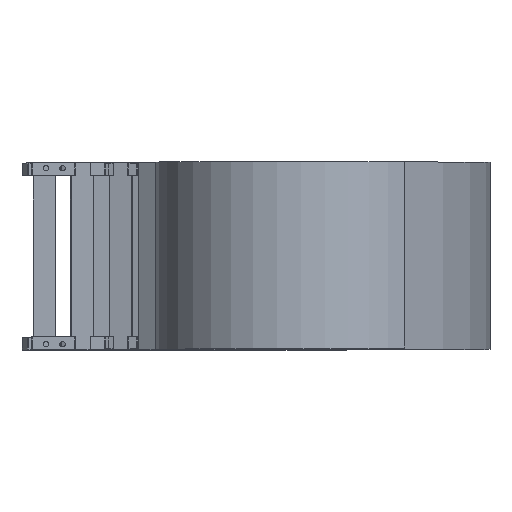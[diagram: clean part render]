
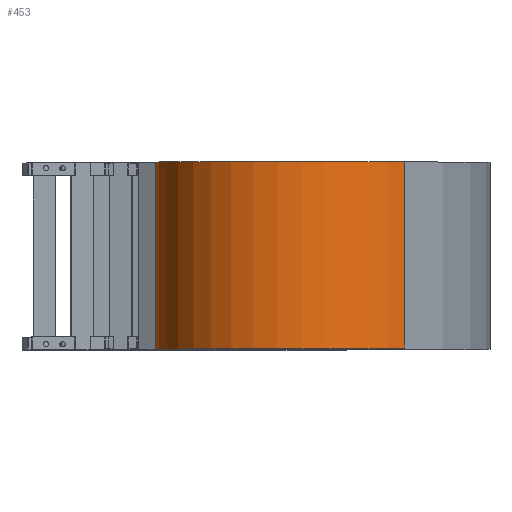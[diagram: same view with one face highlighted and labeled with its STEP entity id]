
A CAD part, top view. The second image highlights one B-rep face of the part: STEP entity #453.
In plain terms, the highlighted cylindrical face has radius 150 mm (diameter 300 mm), a partial arc.
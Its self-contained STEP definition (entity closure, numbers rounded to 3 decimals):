
#453 = ADVANCED_FACE( '', ( #1202 ), #1203, .T. );
#1202 = FACE_OUTER_BOUND( '', #2308, .T. );
#1203 = CYLINDRICAL_SURFACE( '', #2309, 150. );
#2308 = EDGE_LOOP( '', ( #3435, #3436, #3437, #3438 ) );
#2309 = AXIS2_PLACEMENT_3D( '', #3439, #3440, #3441 );
#3435 = ORIENTED_EDGE( '', *, *, #6821, .T. );
#3436 = ORIENTED_EDGE( '', *, *, #6822, .F. );
#3437 = ORIENTED_EDGE( '', *, *, #6823, .F. );
#3438 = ORIENTED_EDGE( '', *, *, #6824, .T. );
#3439 = CARTESIAN_POINT( '', ( 247.117, 101.5, 187.171 ) );
#3440 = DIRECTION( '', ( 0., 1., 0. ) );
#3441 = DIRECTION( '', ( 0., 0., -1. ) );
#6821 = EDGE_CURVE( '', #8202, #8203, #8204, .T. );
#6822 = EDGE_CURVE( '', #8205, #8203, #8206, .T. );
#6823 = EDGE_CURVE( '', #8207, #8205, #8208, .T. );
#6824 = EDGE_CURVE( '', #8207, #8202, #8209, .T. );
#8202 = VERTEX_POINT( '', #10247 );
#8203 = VERTEX_POINT( '', #10248 );
#8204 = CIRCLE( '', #10249, 150. );
#8205 = VERTEX_POINT( '', #10250 );
#8206 = LINE( '', #10251, #10252 );
#8207 = VERTEX_POINT( '', #10253 );
#8208 = CIRCLE( '', #10254, 150. );
#8209 = LINE( '', #10255, #10256 );
#10247 = CARTESIAN_POINT( '', ( 127.544, -101.5, 96.604 ) );
#10248 = CARTESIAN_POINT( '', ( 366.69, -101.5, 277.738 ) );
#10249 = AXIS2_PLACEMENT_3D( '', #13034, #13035, #13036 );
#10250 = CARTESIAN_POINT( '', ( 366.69, 101.5, 277.738 ) );
#10251 = CARTESIAN_POINT( '', ( 366.69, 101.5, 277.738 ) );
#10252 = VECTOR( '', #13037, 1000. );
#10253 = CARTESIAN_POINT( '', ( 127.544, 101.5, 96.604 ) );
#10254 = AXIS2_PLACEMENT_3D( '', #13038, #13039, #13040 );
#10255 = CARTESIAN_POINT( '', ( 127.544, 101.5, 96.604 ) );
#10256 = VECTOR( '', #13041, 1000. );
#13034 = CARTESIAN_POINT( '', ( 247.117, -101.5, 187.171 ) );
#13035 = DIRECTION( '', ( 0., 1., 0. ) );
#13036 = DIRECTION( '', ( 1., 0., 0. ) );
#13037 = DIRECTION( '', ( 0., -1., 0. ) );
#13038 = CARTESIAN_POINT( '', ( 247.117, 101.5, 187.171 ) );
#13039 = DIRECTION( '', ( 0., 1., 0. ) );
#13040 = DIRECTION( '', ( 1., 0., 0. ) );
#13041 = DIRECTION( '', ( 0., -1., 0. ) );
